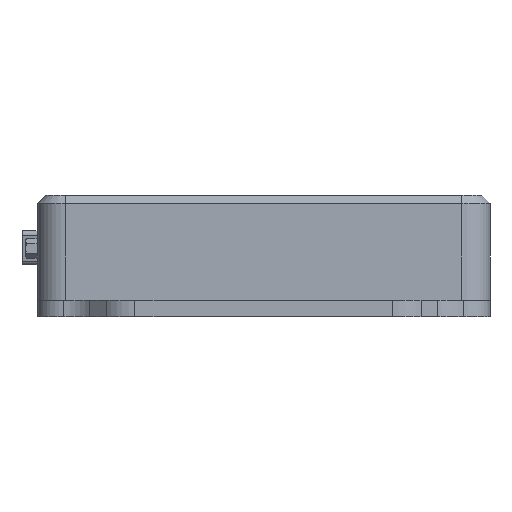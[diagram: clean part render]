
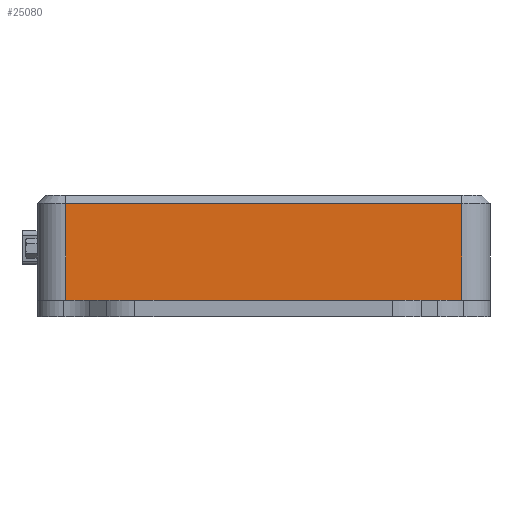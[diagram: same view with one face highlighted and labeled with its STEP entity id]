
A CAD part, front view. The second image highlights one B-rep face of the part: STEP entity #25080.
In plain terms, the highlighted planar face has unit normal (0, -1, 0).
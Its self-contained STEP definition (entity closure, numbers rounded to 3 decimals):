
#1399=PLANE('',#27054);
#2912=LINE('',#43305,#5035);
#3258=LINE('',#45868,#5381);
#3277=LINE('',#45915,#5400);
#3278=LINE('',#45917,#5401);
#5035=VECTOR('',#31992,10.);
#5381=VECTOR('',#32728,10.);
#5400=VECTOR('',#32799,10.);
#5401=VECTOR('',#32802,10.);
#7297=FACE_OUTER_BOUND('',#8789,.T.);
#8789=EDGE_LOOP('',(#21855,#21856,#21857,#21858));
#11629=VERTEX_POINT('',#43302);
#11630=VERTEX_POINT('',#43304);
#11979=VERTEX_POINT('',#45863);
#11980=VERTEX_POINT('',#45867);
#14792=EDGE_CURVE('',#11630,#11629,#2912,.T.);
#15334=EDGE_CURVE('',#11979,#11980,#3258,.T.);
#15355=EDGE_CURVE('',#11630,#11979,#3277,.T.);
#15356=EDGE_CURVE('',#11980,#11629,#3278,.T.);
#21855=ORIENTED_EDGE('',*,*,#15334,.F.);
#21856=ORIENTED_EDGE('',*,*,#15355,.F.);
#21857=ORIENTED_EDGE('',*,*,#14792,.T.);
#21858=ORIENTED_EDGE('',*,*,#15356,.F.);
#25080=ADVANCED_FACE('',(#7297),#1399,.T.);
#27054=AXIS2_PLACEMENT_3D('',#45916,#32800,#32801);
#31992=DIRECTION('',(1.,0.,0.));
#32728=DIRECTION('',(1.,0.,0.));
#32799=DIRECTION('',(0.,0.,1.));
#32800=DIRECTION('center_axis',(0.,-1.,0.));
#32801=DIRECTION('ref_axis',(1.,0.,0.));
#32802=DIRECTION('',(0.,0.,-1.));
#43302=CARTESIAN_POINT('',(84.,-12.,-18.5));
#43304=CARTESIAN_POINT('',(-14.,-12.,-18.5));
#43305=CARTESIAN_POINT('',(-19.,-12.,-18.5));
#45863=CARTESIAN_POINT('',(-14.,-12.,5.5));
#45867=CARTESIAN_POINT('',(84.,-12.,5.5));
#45868=CARTESIAN_POINT('',(8.,-12.,5.5));
#45915=CARTESIAN_POINT('',(-14.,-12.,-18.5));
#45916=CARTESIAN_POINT('Origin',(-19.,-12.,-18.5));
#45917=CARTESIAN_POINT('',(84.,-12.,-18.5));
